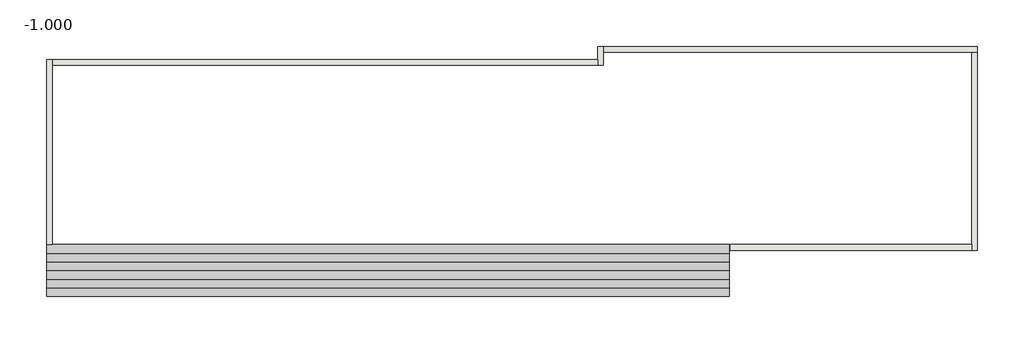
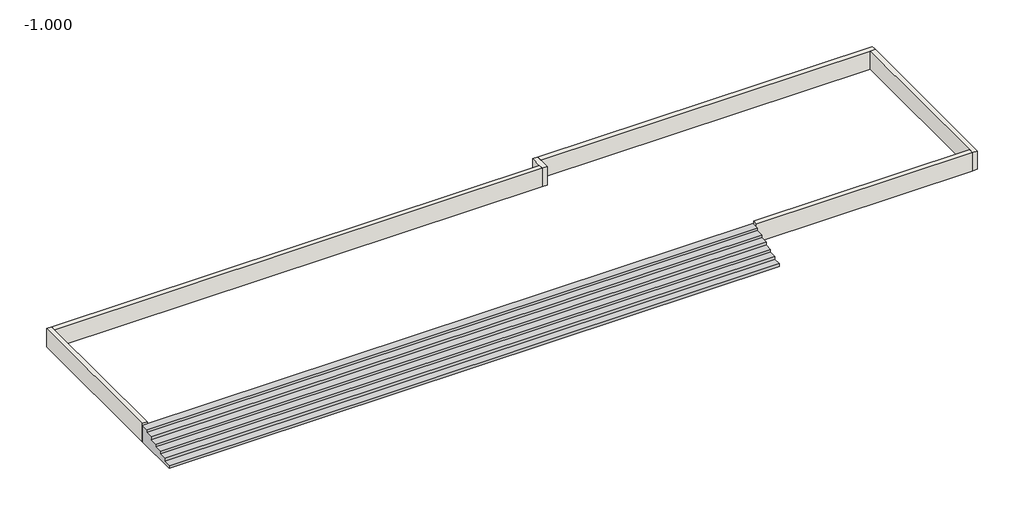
# One storey: 6 walls, 1 proxy.
"""IFC4 building model written with IfcOpenShell, lengths in millimetres."""

from ifc_helpers import new_model, si_unit, frame, origin, place, context, project, spatial, polyline, outline, extrude, faceted_brep, transform, mapped, element, save
from components import generic_models_83a5cd1b

model = new_model("IFC4")

# Units and contexts
model_context = context("Model", 3, world=origin())
ifc_project = project(units=[si_unit("LENGTHUNIT", "METRE", prefix="MILLI")], contexts=[model_context])

# Site, building, storey
site = spatial("IfcSite", under=ifc_project)
building = spatial("IfcBuilding", under=site)
storey = spatial("IfcBuildingStorey", under=building, Name="-1.000", Elevation=-1000.0)

# Proxy
placement = place(None, origin())
generic_models_shape = generic_models_83a5cd1b(model_context)
element("IfcBuildingElementProxy", 1, Name="室外台阶 : 室外台阶", ObjectType="室外台阶 : 室外台阶", at=placement, inside=storey, context=model_context, shape_type="MappedRepresentation", body=[
    mapped(generic_models_shape, transform((0.0, 0.0, 0.0), x_axis=(1.0, 0.0, 0.0), y_axis=(0.0, 1.0, 0.0), z_axis=(0.0, 0.0, 1.0))),
])

# Walls
element("IfcWall", 2, ObjectType="墙裙", at=placement, inside=storey, context=model_context, shape_type="Brep", body=[
    faceted_brep([(-23229.1214542, -26588.2373497, -1000.0), (-23229.1214542, -18268.2373497, -1000.0), (-23229.1214542, -18008.2373497, -1000.0), (-23229.1214542, -18008.2373497, 0.0), (-23229.1214542, -18268.2373497, 0.0), (-23229.1214542, -26588.2373497, 0.0), (-23489.1214542, -26588.2373497, -1000.0), (-23489.1214542, -26588.2373497, 0.0), (-23489.1214542, -18008.2373497, 0.0), (-23489.1214542, -18008.2373497, -1000.0)], [[[0, 1, 2, 3, 4, 5]], [[6, 7, 8, 9]], [[2, 1, 0, 6, 9]], [[5, 4, 3, 8, 7]], [[0, 5, 7, 6]], [[3, 2, 9, 8]]]),
])
element("IfcWall", 3, ObjectType="墙裙", at=placement, inside=storey, context=model_context, shape_type="SweptSolid", body=[
    extrude(outline(polyline([(2010.8785458, -18268.2373497), (-23229.1214542, -18268.2373497), (-23229.1214542, -18008.2373497), (2010.8785458, -18008.2373497), (2010.8785458, -18268.2373497)])), frame((0.0, 0.0, -1000.0), z_axis=(0.0, 0.0, 1.0), x_axis=(1.0, 0.0, 0.0)), (0.0, 0.0, 1.0), 1000.0),
])
element("IfcWall", 4, ObjectType="墙裙", at=placement, inside=storey, context=model_context, shape_type="Brep", body=[
    faceted_brep([(2270.8785458, -18268.2373497, -1000.0), (2270.8785458, -17668.2373497, -1000.0), (2270.8785458, -17408.2373497, -1000.0), (2270.8785458, -17408.2373497, 0.0), (2270.8785458, -17668.2373497, 0.0), (2270.8785458, -18268.2373497, 0.0), (2010.8785458, -18268.2373497, -1000.0), (2010.8785458, -18268.2373497, 0.0), (2010.8785458, -18008.2373497, 0.0), (2010.8785458, -17408.2373497, 0.0), (2010.8785458, -17408.2373497, -1000.0), (2010.8785458, -18008.2373497, -1000.0)], [[[0, 1, 2, 3, 4, 5]], [[6, 7, 8, 9, 10, 11]], [[2, 1, 0, 6, 11, 10]], [[5, 4, 3, 9, 8, 7]], [[0, 5, 7, 6]], [[3, 2, 10, 9]]]),
])
element("IfcWall", 5, ObjectType="墙裙", at=placement, inside=storey, context=model_context, shape_type="Brep", body=[
    faceted_brep([(2270.8785458, -17668.2373497, -1000.0), (19315.8785458, -17668.2373497, -1000.0), (19575.8785458, -17668.2373497, -1000.0), (19575.8785458, -17668.2373497, 0.0), (19315.8785458, -17668.2373497, 0.0), (2270.8785458, -17668.2373497, 0.0), (2270.8785458, -17408.2373497, -1000.0), (2270.8785458, -17408.2373497, 0.0), (19575.8785458, -17408.2373497, 0.0), (19575.8785458, -17408.2373497, -1000.0)], [[[0, 1, 2, 3, 4, 5]], [[6, 7, 8, 9]], [[2, 1, 0, 6, 9]], [[5, 4, 3, 8, 7]], [[0, 5, 7, 6]], [[3, 2, 9, 8]]]),
])
element("IfcWall", 6, ObjectType="墙裙", at=placement, inside=storey, context=model_context, shape_type="Brep", body=[
    faceted_brep([(19315.8785458, -17668.2373497, -1000.0), (19315.8785458, -26588.2373497, -1000.0), (19315.8785458, -26848.2373497, -1000.0), (19315.8785458, -26848.2373497, 0.0), (19315.8785458, -26588.2373497, 0.0), (19315.8785458, -17668.2373497, 0.0), (19575.8785458, -17668.2373497, -1000.0), (19575.8785458, -17668.2373497, 0.0), (19575.8785458, -26848.2373497, 0.0), (19575.8785458, -26848.2373497, -1000.0)], [[[0, 1, 2, 3, 4, 5]], [[6, 7, 8, 9]], [[2, 1, 0, 6, 9]], [[5, 4, 3, 8, 7]], [[0, 5, 7, 6]], [[3, 2, 9, 8]]]),
])
element("IfcWall", 7, ObjectType="墙裙", at=placement, inside=storey, context=model_context, shape_type="SweptSolid", body=[
    extrude(outline(polyline([(8140.8785458, -26588.2373497), (19315.8785458, -26588.2373497), (19315.8785458, -26848.2373497), (8140.8785458, -26848.2373497), (8140.8785458, -26588.2373497)])), frame((0.0, 0.0, -1000.0), z_axis=(0.0, 0.0, 1.0), x_axis=(1.0, 0.0, 0.0)), (0.0, 0.0, 1.0), 1000.0),
])

save(model, "model.ifc")
